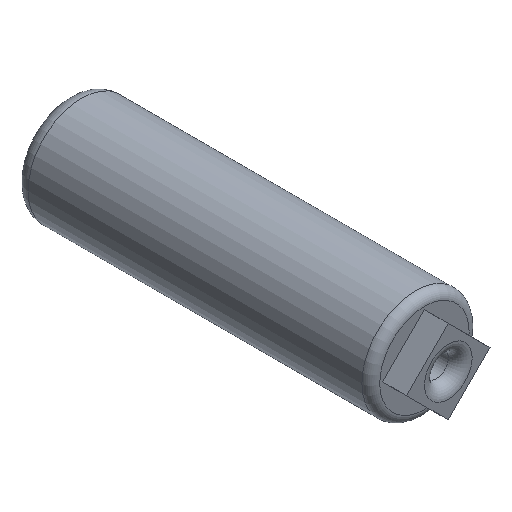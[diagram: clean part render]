
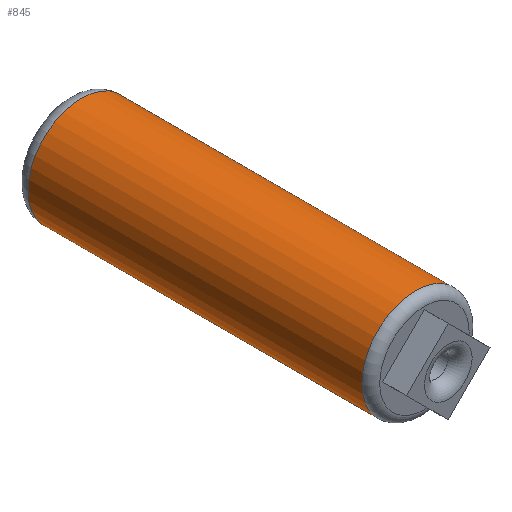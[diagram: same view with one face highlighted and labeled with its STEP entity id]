
A CAD part, isometric view. The second image highlights one B-rep face of the part: STEP entity #845.
In plain terms, the highlighted cylindrical face has radius 22.86 mm (diameter 45.72 mm), a full revolution.
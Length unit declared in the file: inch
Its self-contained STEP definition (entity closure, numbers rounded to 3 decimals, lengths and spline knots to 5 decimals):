
#44=CIRCLE('',#916,0.9);
#45=CIRCLE('',#917,0.9);
#46=CIRCLE('',#918,0.9);
#48=CIRCLE('',#921,0.9);
#49=CIRCLE('',#922,0.9);
#95=FACE_OUTER_BOUND('',#143,.T.);
#143=EDGE_LOOP('',(#640,#641,#642,#643,#644,#645,#646));
#251=LINE('',#2597,#294);
#294=VECTOR('',#1072,0.9);
#369=VERTEX_POINT('',#2587);
#370=VERTEX_POINT('',#2589);
#371=VERTEX_POINT('',#2591);
#372=VERTEX_POINT('',#2596);
#373=VERTEX_POINT('',#2598);
#480=EDGE_CURVE('',#369,#370,#44,.T.);
#481=EDGE_CURVE('',#370,#371,#45,.T.);
#482=EDGE_CURVE('',#371,#369,#46,.T.);
#484=EDGE_CURVE('',#370,#372,#251,.T.);
#485=EDGE_CURVE('',#373,#372,#48,.T.);
#486=EDGE_CURVE('',#372,#373,#49,.T.);
#640=ORIENTED_EDGE('',*,*,#482,.F.);
#641=ORIENTED_EDGE('',*,*,#481,.F.);
#642=ORIENTED_EDGE('',*,*,#484,.T.);
#643=ORIENTED_EDGE('',*,*,#485,.F.);
#644=ORIENTED_EDGE('',*,*,#486,.F.);
#645=ORIENTED_EDGE('',*,*,#484,.F.);
#646=ORIENTED_EDGE('',*,*,#480,.F.);
#812=CYLINDRICAL_SURFACE('',#920,0.9);
#845=ADVANCED_FACE('',(#95),#812,.T.);
#916=AXIS2_PLACEMENT_3D('',#2590,#1062,#1063);
#917=AXIS2_PLACEMENT_3D('',#2592,#1064,#1065);
#918=AXIS2_PLACEMENT_3D('',#2593,#1066,#1067);
#920=AXIS2_PLACEMENT_3D('',#2595,#1070,#1071);
#921=AXIS2_PLACEMENT_3D('',#2599,#1073,#1074);
#922=AXIS2_PLACEMENT_3D('',#2600,#1075,#1076);
#1062=DIRECTION('center_axis',(0.,1.,0.));
#1063=DIRECTION('ref_axis',(-1.,0.,0.));
#1064=DIRECTION('center_axis',(0.,1.,0.));
#1065=DIRECTION('ref_axis',(-1.,0.,0.));
#1066=DIRECTION('center_axis',(0.,1.,0.));
#1067=DIRECTION('ref_axis',(-1.,0.,0.));
#1070=DIRECTION('center_axis',(0.,1.,0.));
#1071=DIRECTION('ref_axis',(1.,0.,0.));
#1072=DIRECTION('',(0.,-1.,0.));
#1073=DIRECTION('center_axis',(0.,-1.,0.));
#1074=DIRECTION('ref_axis',(1.,0.,0.));
#1075=DIRECTION('center_axis',(0.,-1.,0.));
#1076=DIRECTION('ref_axis',(1.,0.,0.));
#2587=CARTESIAN_POINT('',(0.,5.75,-0.9));
#2589=CARTESIAN_POINT('',(-0.9,5.75,0.));
#2590=CARTESIAN_POINT('Origin',(0.,5.75,0.));
#2591=CARTESIAN_POINT('',(0.9,5.75,0.));
#2592=CARTESIAN_POINT('Origin',(0.,5.75,0.));
#2593=CARTESIAN_POINT('Origin',(0.,5.75,0.));
#2595=CARTESIAN_POINT('Origin',(0.,0.,0.));
#2596=CARTESIAN_POINT('',(-0.9,0.15,0.));
#2597=CARTESIAN_POINT('',(-0.9,0.,0.));
#2598=CARTESIAN_POINT('',(0.,0.15,-0.9));
#2599=CARTESIAN_POINT('Origin',(0.,0.15,0.));
#2600=CARTESIAN_POINT('Origin',(0.,0.15,0.));
